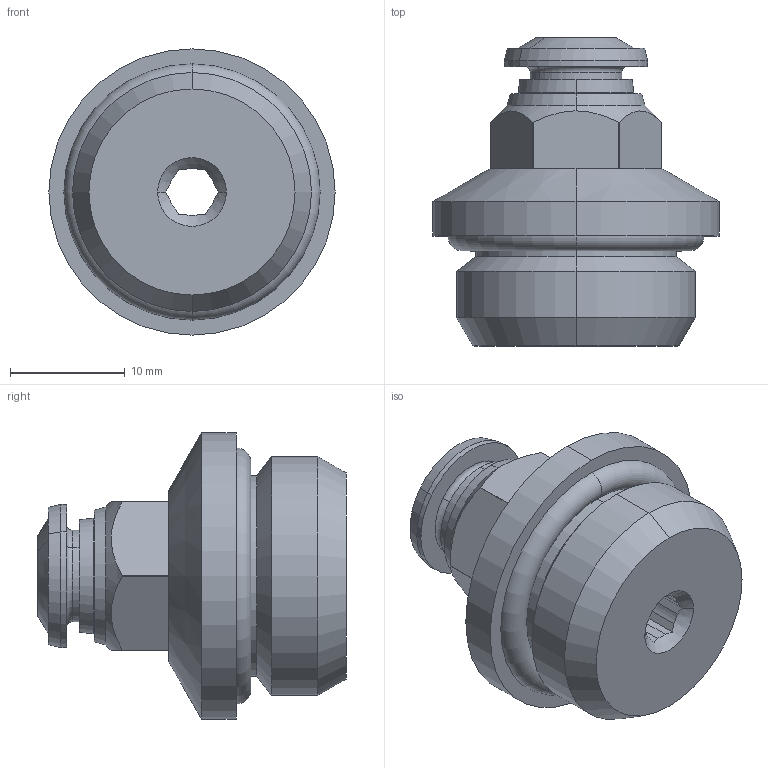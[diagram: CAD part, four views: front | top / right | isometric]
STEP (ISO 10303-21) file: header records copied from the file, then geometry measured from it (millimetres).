
FILE_DESCRIPTION (( 'STEP AP214' ), '1' );
FILE_NAME ('5002000028.STEP', '2024-10-17T08:12:36', ( '' ), ( '' ), 'SwSTEP 2.0', 'SolidWorks 2020', '' );
FILE_SCHEMA (( 'AUTOMOTIVE_DESIGN' ));
Length unit declared in the file: millimetre
Products named in the file (1): 5002000028
Bounding box: 25 x 26.9 x 25 mm (x, y, z)
Volume: 6125.7 mm3; surface area: 2923.2 mm2
Topology: 1 solids, 1 shells, 121 faces, 303 edges, 192 vertices
Faces by surface type: cone 34, bspline 33, plane 30, cylinder 20, torus 4
Entity records: 7612 total; most frequent: CARTESIAN_POINT 3656, ORIENTED_EDGE 606, DIRECTION 426, EDGE_CURVE 303, VERTEX_POINT 192, AXIS2_PLACEMENT_3D 173, B_SPLINE_CURVE_WITH_KNOTS 139, EDGE_LOOP 131
